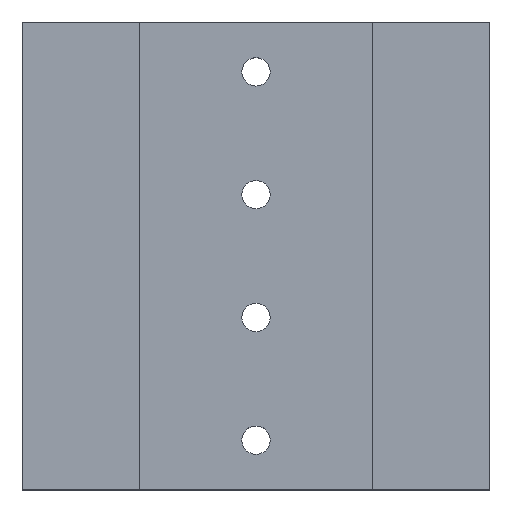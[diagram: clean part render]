
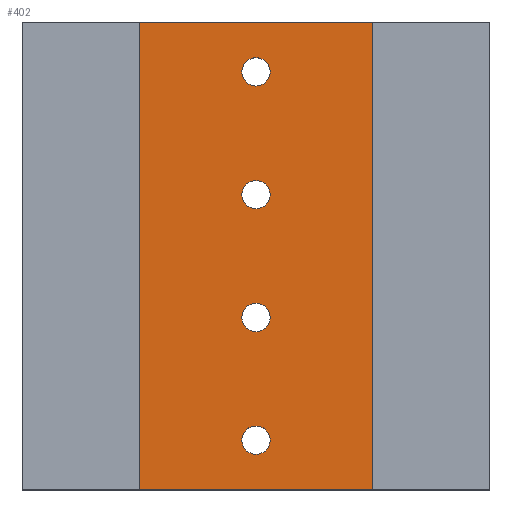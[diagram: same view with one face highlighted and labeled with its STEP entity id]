
A CAD part, top view. The second image highlights one B-rep face of the part: STEP entity #402.
In plain terms, the highlighted planar face has unit normal (0, 0, 1).
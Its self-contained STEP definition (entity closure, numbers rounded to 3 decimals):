
#15=LINE('',#603,#39);
#22=LINE('',#618,#46);
#34=LINE('',#672,#58);
#38=LINE('',#679,#62);
#39=VECTOR('',#493,10.);
#46=VECTOR('',#504,10.);
#58=VECTOR('',#562,10.);
#62=VECTOR('',#570,10.);
#72=PLANE('',#456);
#93=FACE_BOUND('',#177,.T.);
#94=FACE_BOUND('',#178,.T.);
#95=FACE_BOUND('',#179,.T.);
#96=FACE_BOUND('',#180,.T.);
#130=FACE_OUTER_BOUND('',#176,.T.);
#176=EDGE_LOOP('',(#361,#362,#363,#364));
#177=EDGE_LOOP('',(#365));
#178=EDGE_LOOP('',(#366));
#179=EDGE_LOOP('',(#367));
#180=EDGE_LOOP('',(#368));
#191=CIRCLE('',#435,1.15);
#194=CIRCLE('',#440,1.15);
#197=CIRCLE('',#445,1.15);
#200=CIRCLE('',#450,1.15);
#209=VERTEX_POINT('',#601);
#210=VERTEX_POINT('',#602);
#215=VERTEX_POINT('',#616);
#216=VERTEX_POINT('',#617);
#223=VERTEX_POINT('',#636);
#226=VERTEX_POINT('',#644);
#229=VERTEX_POINT('',#652);
#232=VERTEX_POINT('',#660);
#245=EDGE_CURVE('',#209,#210,#15,.T.);
#252=EDGE_CURVE('',#215,#216,#22,.T.);
#261=EDGE_CURVE('',#223,#223,#191,.T.);
#264=EDGE_CURVE('',#226,#226,#194,.T.);
#267=EDGE_CURVE('',#229,#229,#197,.T.);
#270=EDGE_CURVE('',#232,#232,#200,.T.);
#276=EDGE_CURVE('',#216,#209,#34,.T.);
#280=EDGE_CURVE('',#210,#215,#38,.T.);
#361=ORIENTED_EDGE('',*,*,#245,.T.);
#362=ORIENTED_EDGE('',*,*,#280,.T.);
#363=ORIENTED_EDGE('',*,*,#252,.T.);
#364=ORIENTED_EDGE('',*,*,#276,.T.);
#365=ORIENTED_EDGE('',*,*,#261,.T.);
#366=ORIENTED_EDGE('',*,*,#264,.T.);
#367=ORIENTED_EDGE('',*,*,#267,.T.);
#368=ORIENTED_EDGE('',*,*,#270,.T.);
#402=ADVANCED_FACE('',(#130,#93,#94,#95,#96),#72,.F.);
#435=AXIS2_PLACEMENT_3D('',#637,#521,#522);
#440=AXIS2_PLACEMENT_3D('',#645,#531,#532);
#445=AXIS2_PLACEMENT_3D('',#653,#541,#542);
#450=AXIS2_PLACEMENT_3D('',#661,#551,#552);
#456=AXIS2_PLACEMENT_3D('',#681,#573,#574);
#493=DIRECTION('',(0.,1.,0.));
#504=DIRECTION('',(0.,-1.,0.));
#521=DIRECTION('center_axis',(0.,0.,
-1.));
#522=DIRECTION('ref_axis',(1.,0.,0.));
#531=DIRECTION('center_axis',(0.,0.,
-1.));
#532=DIRECTION('ref_axis',(1.,0.,0.));
#541=DIRECTION('center_axis',(0.,0.,
-1.));
#542=DIRECTION('ref_axis',(1.,0.,0.));
#551=DIRECTION('center_axis',(0.,0.,
-1.));
#552=DIRECTION('ref_axis',(1.,0.,0.));
#562=DIRECTION('',(1.,0.,0.));
#570=DIRECTION('',(-1.,0.,0.));
#573=DIRECTION('center_axis',(0.,0.,
-1.));
#574=DIRECTION('ref_axis',(-1.,0.,0.));
#601=CARTESIAN_POINT('',(-9.55,0.,4.));
#602=CARTESIAN_POINT('',(-9.55,38.1,4.));
#603=CARTESIAN_POINT('',(-9.55,28.575,4.));
#616=CARTESIAN_POINT('',(-28.55,38.1,4.));
#617=CARTESIAN_POINT('',(-28.55,0.,4.));
#618=CARTESIAN_POINT('',(-28.55,9.525,4.));
#636=CARTESIAN_POINT('',(-20.2,24.05,4.));
#637=CARTESIAN_POINT('Origin',(-19.05,24.05,4.));
#644=CARTESIAN_POINT('',(-20.2,4.05,4.));
#645=CARTESIAN_POINT('Origin',(-19.05,4.05,4.));
#652=CARTESIAN_POINT('',(-20.2,14.05,4.));
#653=CARTESIAN_POINT('Origin',(-19.05,14.05,4.));
#660=CARTESIAN_POINT('',(-20.2,34.05,4.));
#661=CARTESIAN_POINT('Origin',(-19.05,34.05,4.));
#672=CARTESIAN_POINT('',(-28.575,0.,4.));
#679=CARTESIAN_POINT('',(-9.525,38.1,4.));
#681=CARTESIAN_POINT('Origin',(-19.05,19.05,4.));
